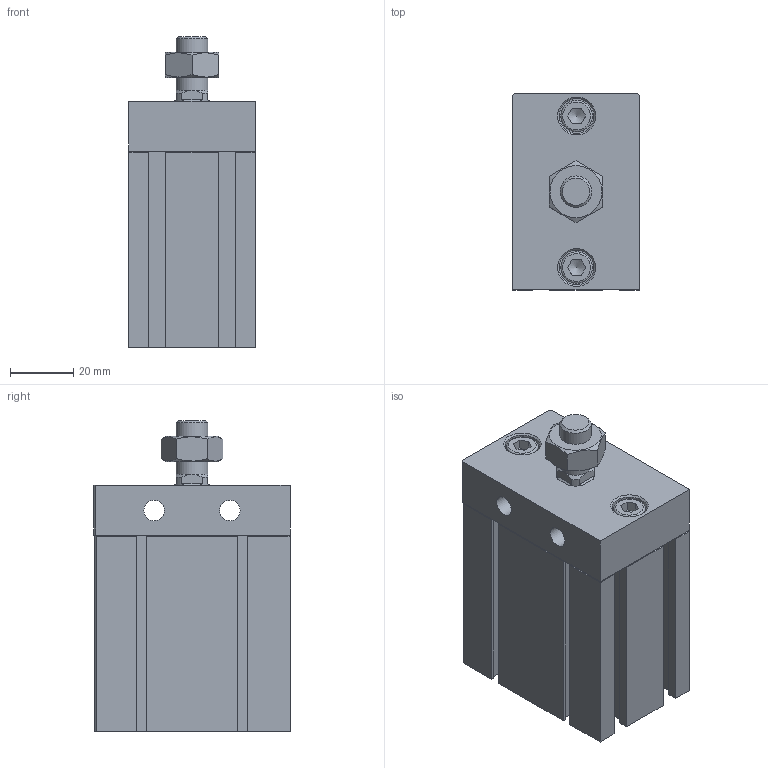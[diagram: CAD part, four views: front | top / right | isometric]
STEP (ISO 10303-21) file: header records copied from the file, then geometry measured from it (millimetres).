
FILE_DESCRIPTION((''),'2;1');
FILE_NAME('I:\3D電子目錄\氣缸\ND\ND\ND32-B\ND32x30-B.stp','2007-07-30T20:21:43',('Administrator'),(''),'Autodesk Inventor 11','Autodesk Inventor 11','');
FILE_SCHEMA(('AUTOMOTIVE_DESIGN { 1 0 10303 214 1 1 1 1 }'));
Length unit declared in the file: millimetre
Products named in the file (4): ND32-B; R 形環 34; ISO 4762 M6 x 16
Assembly tree (4 placements, depth 2):
  ND32-B
    ND32-B
    R 形環 34
    ISO 4762 M6 x 16  x2
Bounding box: 40 x 62.1 x 98.5 mm (x, y, z)
Volume: 174560.3 mm3; surface area: 35552.4 mm2
Topology: 5 solids, 5 shells, 205 faces, 489 edges, 311 vertices
Faces by surface type: plane 141, cylinder 27, cone 20, bspline 14, torus 3
Full cylindrical faces by diameter (mm): 1.9 x2, 2.2 x2, 6 x2, 6.5 x2, 10 x4, 11 x2, 23 x1, 34 x1, 36 x1
Entity records: 5447 total; most frequent: CARTESIAN_POINT 1131, DIRECTION 848, ORIENTED_EDGE 824, EDGE_CURVE 412, VECTOR 294, LINE 294, VERTEX_POINT 286, AXIS2_PLACEMENT_3D 277
